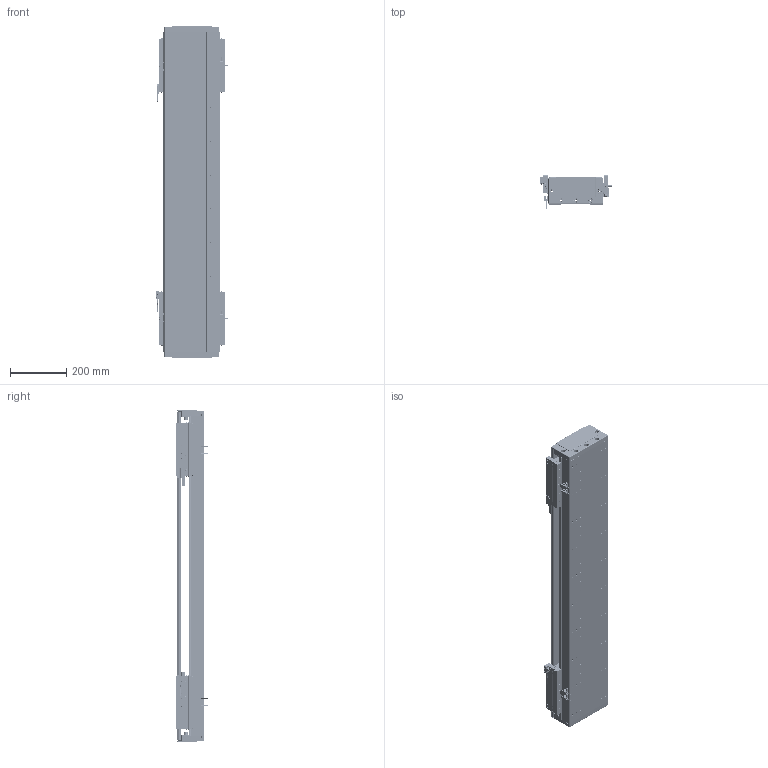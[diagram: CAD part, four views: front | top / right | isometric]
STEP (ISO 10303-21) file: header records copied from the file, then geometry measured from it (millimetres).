
FILE_DESCRIPTION (( 'STEP AP203' ), '1' );
FILE_NAME ('DA-C195-2-C2-T680-C010-0.2 眻盄萇儂.STEP', '2025-08-14T01:58:03', ( '' ), ( '' ), 'SwSTEP 2.0', 'SolidWorks 2019', '' );
FILE_SCHEMA (( 'CONFIG_CONTROL_DESIGN' ));
Length unit declared in the file: millimetre
Products named in the file (16): IU-CU195-L-00 菁釱(L1140); 66156-0001-005-00 光电感应片(默认); DA95-HXJ-00 遣喳砎蝶; PM-T45ㄗ侂狟ㄘ; DA195-DG-H-00  端盖（压铸镂空版）; 葩璃 DA95-GT-T-00; DA-C195-2-C2-T680-C010-0.2 眻盄萇儂; LMT黍杅芛; CU195-C2賑輸-俋楷; MS200 棠掑喜S315-T240; 66156-0001-003-00 裔啣; DKW-KGZ-ZJ-00 中间光电开关支架; IU-CU195-L 菁釱絳寢; DKW-GYP-ZJ-00 笢潔嫖萇覜茼え; DKW168-HXJ-ZJ-00 笢潔滅袉砎蝶; PM-Y65嫖萇羲壽郪璃
Assembly tree (28 placements, depth 3):
  DA-C195-2-C2-T680-C010-0.2 眻盄萇儂
    IU-CU195-L 菁釱絳寢
      IU-CU195-L-00 菁釱(L1140)
      葩璃 DA95-GT-T-00  x4
    LMT黍杅芛  x2
    MS200 棠掑喜S315-T240
    PM-T45ㄗ侂狟ㄘ  x4
    66156-0001-005-00 光电感应片(默认)  x2
    DA195-DG-H-00  端盖（压铸镂空版）  x2
    DA95-HXJ-00 遣喳砎蝶  x4
    PM-Y65嫖萇羲壽郪璃
    66156-0001-003-00 裔啣
    DKW168-HXJ-ZJ-00 笢潔滅袉砎蝶
    DKW-GYP-ZJ-00 笢潔嫖萇覜茼え
    DKW-KGZ-ZJ-00 中间光电开关支架
    CU195-C2賑輸-俋楷  x2
Bounding box: 258.2 x 115.6 x 1180 mm (x, y, z)
Volume: 9507235.5 mm3; surface area: 2641286.3 mm2
Topology: 106 solids, 242 shells, 7878 faces, 19776 edges, 12019 vertices
Faces by surface type: cylinder 3202, plane 2860, cone 946, bspline 718, torus 80, sphere 72
Entity records: 156035 total; most frequent: CARTESIAN_POINT 47712, ORIENTED_EDGE 22554, DIRECTION 21546, EDGE_CURVE 11277, AXIS2_PLACEMENT_3D 7859, VERTEX_POINT 7134, LINE 5828, VECTOR 5828
